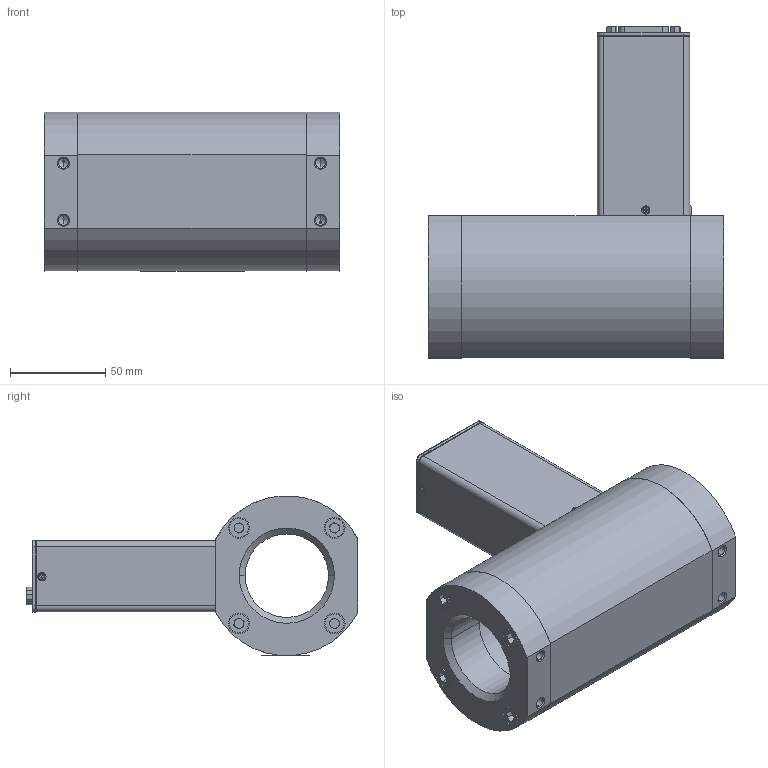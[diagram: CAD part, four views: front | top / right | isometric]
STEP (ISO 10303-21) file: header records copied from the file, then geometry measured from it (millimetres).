
FILE_DESCRIPTION (( 'STEP AP203' ), '1' );
FILE_NAME ('SLA5863-S-2J-0-C-REVB.STEP', '2025-05-05T15:19:20', ( '' ), ( '' ), 'SwSTEP 2.0', 'SolidWorks 2023', '' );
FILE_SCHEMA (( 'CONFIG_CONTROL_DESIGN' ));
Length unit declared in the file: inch
Products named in the file (1): SLA5863-S-2J-0-C-REVB
Bounding box: 155 x 174.37 x 84.01 mm (x, y, z)
Volume: 486454.9 mm3; surface area: 149039.3 mm2
Topology: 25 solids, 25 shells, 1399 faces, 3601 edges, 2272 vertices
Faces by surface type: plane 604, cylinder 389, cone 288, bspline 118
Entity records: 45301 total; most frequent: CARTESIAN_POINT 11357, ORIENTED_EDGE 7114, DIRECTION 6993, EDGE_CURVE 3557, AXIS2_PLACEMENT_3D 2501, VERTEX_POINT 2272, VECTOR 1991, LINE 1991
